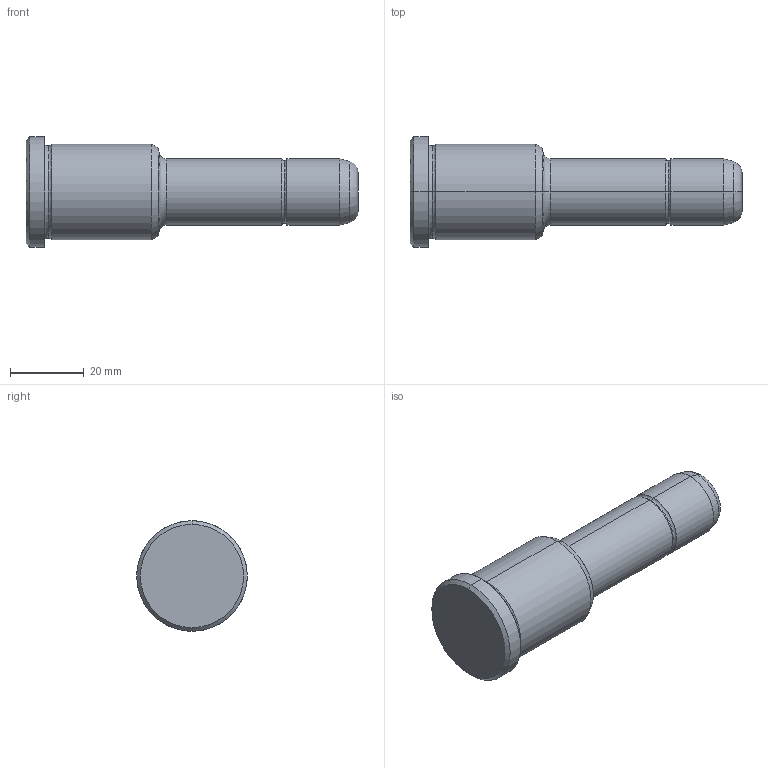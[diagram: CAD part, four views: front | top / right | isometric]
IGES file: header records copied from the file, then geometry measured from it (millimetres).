
Start section: START RECORD GO HERE.
Global section: file name: 351-18X36X90.igs; native system: DASSAULT SYSTEMES CATIA V5 R20 - www.3ds.com; preprocessor: CATIA Version 5 Release 20 ; author: Utente; organization: NB04-ASUS; date: 20210819.144220; units: millimetre
Bounding box: 90 x 30 x 30 mm (x, y, z)
Surface area: 7219.3 mm2 (no closed solid volume)
Topology: 0 solids, 0 shells, 30 faces, 172 edges, 172 vertices
Faces by surface type: revolution 26, plane 4
